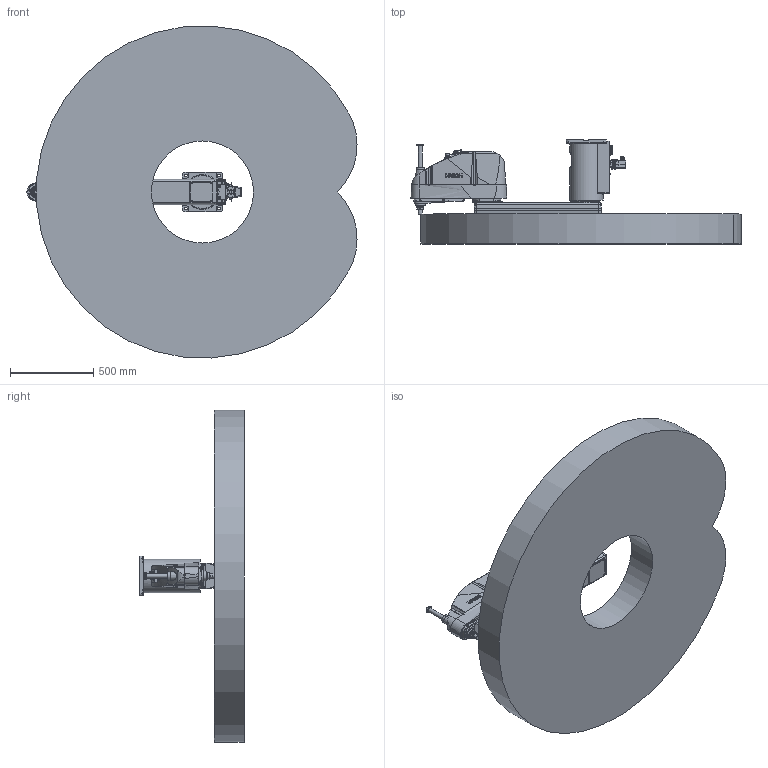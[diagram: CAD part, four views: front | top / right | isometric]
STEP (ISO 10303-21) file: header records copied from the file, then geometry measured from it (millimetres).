
FILE_DESCRIPTION( ( 'STEP AP214' ), '1' );
FILE_NAME( 'C:/Users/9607552/Desktop/GX20-BA01SR_langle.stp', '2023-08-01T09:44:39', ( '' ), ( '' ), ' ', 'PARTsolutions', ' ' );
FILE_SCHEMA( ( 'AUTOMOTIVE_DESIGN { 1 0 10303 214 1 1 1 1 }' ) );
Length unit declared in the file: millimetre
Products named in the file (7): GX20-BA01SRA-W; _Base sr; _Angle-B; _J1 Arm GX10-600 r/w; _J2 Arm GX10-s; _J3 Arm GX10-s (1); _GX10_20B-36_1
Assembly tree (6 placements, depth 2):
  GX20-BA01SRA-W
    _Base sr
    _Angle-B
    _J1 Arm GX10-600 r/w
    _J2 Arm GX10-s
    _J3 Arm GX10-s (1)
    _GX10_20B-36_1
Bounding box: 1985.19 x 627.5 x 1996.91 mm (x, y, z)
Volume: 544686182 mm3; surface area: 8539507.4 mm2
Topology: 6 solids, 6 shells, 2471 faces, 6041 edges, 3949 vertices
Faces by surface type: plane 1313, cylinder 761, cone 302, torus 62, bspline 32, sphere 1
Full cylindrical faces by diameter (mm): 1 x24, 1.18 x55, 3 x32, 3.242 x10, 3.3 x4, 4.2 x4, 4.8 x4, 5.1 x4, 5.25 x2, 5.34 x8, 5.4 x5, 5.5 x16, 6 x1, 6.2 x4, 6.647 x2, 7 x31, 8 x9, 8.5 x2, 9 x4, 10 x32, 11 x14, 12 x6, 12.25 x1, 13 x2, 14 x8, 14.25 x1, 16 x6, 18 x2, 20.4 x1, 21.7 x2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
Entity records: 93630 total; most frequent: CARTESIAN_POINT 17799, DIRECTION 11564, ORIENTED_EDGE 10754, EDGE_CURVE 5377, AXIS2_PLACEMENT_3D 4399, VERTEX_POINT 3863, EDGE_LOOP 3442, FACE_OUTER_BOUND 2844
